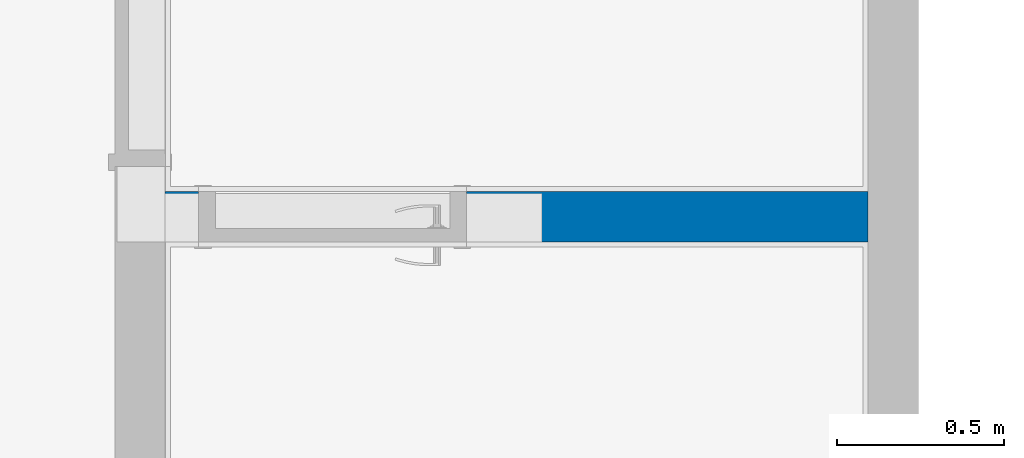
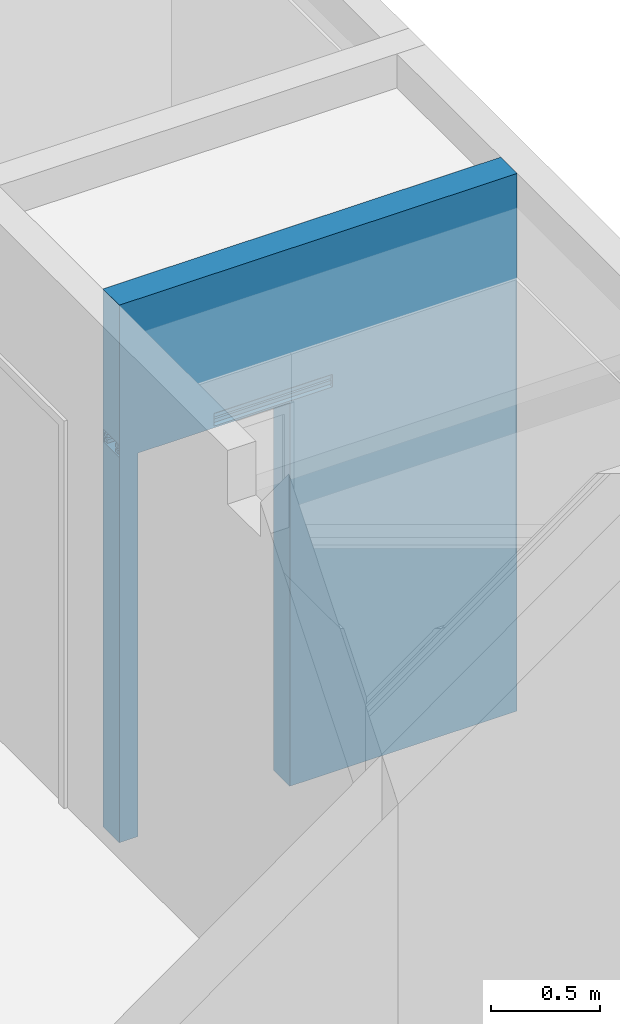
# One storey, part 15 of 17: 1 wall, 1 opening.
"""IFC4 building model written with IfcOpenShell, lengths in millimetres."""

from ifc_helpers import new_model, entity, si_unit, converted_unit, derived_unit, direction, frame, origin_with_axes, place, context, subcontext, project, spatial, polygons, material, constituent, constituent_set, type_object, element, save


model = new_model("IFC4")

# Units and contexts
model_context = context("Model", 3, precision=0.01, world=origin_with_axes(), true_north=direction((0.0, 1.0)))
body_context = subcontext(model_context, "Body", "Model", "MODEL_VIEW")
ifc_project = project(units=[si_unit("LENGTHUNIT", "METRE", prefix="MILLI"), si_unit("AREAUNIT", "SQUARE_METRE"), si_unit("VOLUMEUNIT", "CUBIC_METRE"), converted_unit("PLANEANGLEUNIT", "DEGREE", entity("IfcPlaneAngleMeasure", 0.0174532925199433), si_unit("PLANEANGLEUNIT", "RADIAN"), dimensions=[0, 0, 0, 0, 0, 0, 0]), converted_unit("TIMEUNIT", "Year", entity("IfcTimeMeasure", 31557600.0), si_unit("TIMEUNIT", "SECOND"), dimensions=[0, 0, 1, 0, 0, 0, 0]), si_unit("MASSUNIT", "GRAM", prefix="KILO"), si_unit("THERMODYNAMICTEMPERATUREUNIT", "DEGREE_CELSIUS"), si_unit("LUMINOUSINTENSITYUNIT", "LUMEN"), si_unit("ENERGYUNIT", "JOULE", prefix="MEGA"), derived_unit("THERMALCONDUCTANCEUNIT", [(si_unit("POWERUNIT", "WATT"), 1), (si_unit("LENGTHUNIT", "METRE"), -1), (si_unit("THERMODYNAMICTEMPERATUREUNIT", "KELVIN"), -1)]), derived_unit("SPECIFICHEATCAPACITYUNIT", [(si_unit("ENERGYUNIT", "JOULE"), 1), (si_unit("MASSUNIT", "GRAM", prefix="KILO"), -1), (si_unit("THERMODYNAMICTEMPERATUREUNIT", "KELVIN"), -1)]), derived_unit("MASSDENSITYUNIT", [(si_unit("MASSUNIT", "GRAM", prefix="KILO"), 1), (si_unit("VOLUMEUNIT", "CUBIC_METRE"), -1)])], contexts=[model_context])

# Site, building, storey
site_placement = place(None, origin_with_axes())
site = spatial("IfcSite", under=ifc_project, at=site_placement, Name="Exteriér", CompositionType="ELEMENT")
building_placement = place(site_placement, origin_with_axes())
building = spatial("IfcBuilding", under=site, at=building_placement, Name="Univerzitní lezecké centrum", CompositionType="ELEMENT")
storey_placement = place(building_placement, frame((0.0, 0.0, 3200.0), z_axis=(0.0, 0.0, 1.0), x_axis=(1.0, 0.0, 0.0)))
storey = spatial("IfcBuildingStorey", under=building, at=storey_placement, Name="2.NP", CompositionType="ELEMENT", Elevation=3200.0)

# Wall, opening
ifc_material = material(Name="Keramické tvárnice nenosné tl. 150 mm")
ifc_constituent = constituent(ifc_material, Name="Keramické tvárnice nenosné tl. 150 mm")
ifc_constituent_set = constituent_set(constituents=[ifc_constituent], Name="!Vnitřní keramická stěna 150 mm - nenosná**")
wall_type = type_object("IfcWallType", Name="!Vnitřní keramická stěna 150 mm - nenosná** 150", PredefinedType="NOTDEFINED")
wall_placement = place(storey_placement, frame((10149.85164885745, 1250.117966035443, -120.000000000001), z_axis=(0.0, 0.0, 1.0), x_axis=(-0.9999999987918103, -4.915668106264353e-05, 0.0)))
wall = element("IfcWall", 1, at=wall_placement, inside=storey, type_object=wall_type, material=ifc_constituent_set, Name="St07**", PredefinedType="NOTDEFINED", context=body_context, shape_type="Tessellation", body=[
    polygons([(2149.796587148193, 0.0, 0.500000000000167), (2149.796587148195, -150.0000000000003, 0.500000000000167), (2149.796587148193, -149.9999999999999, 120.000000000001), (2149.796587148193, 0.0, 120.000000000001), (2149.796587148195, -150.0000000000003, 0.0), (2149.796587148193, 0.0, 0.0), (1349.796587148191, -150.0000000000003, 0.0), (1349.796587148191, -150.0000000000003, 0.500000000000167), (1349.796587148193, -150.0000000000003, 120.000000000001), (1349.796587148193, -150.0000000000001, 2140.000000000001), (2149.796587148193, -150.0000000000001, 2140.000000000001), (2249.789213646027, -150.0000000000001, 0.0), (2249.789213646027, -149.9999999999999, 3000.0), (149.9926266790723, -149.9999999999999, 3000.0), (149.9926266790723, -150.0000000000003, 0.0), (2149.796587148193, 0.0, 2140.000000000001), (1349.796587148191, 0.0, 0.500000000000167), (1349.796587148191, 0.0, 0.0), (150.0000001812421, 0.0, 0.0), (150.0000001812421, 0.0, 3000.0), (2249.796587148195, 0.0, 3000.0), (2249.796587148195, 0.0, 0.0), (1349.796587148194, 0.0, 2140.000000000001), (1349.796587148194, 0.0, 120.000000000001), (1124.796586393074, 0.0, 2150.000000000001), (1749.796587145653, 0.0, 2150.000000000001), (1749.796587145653, 0.0, 2221.0), (1124.796586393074, 0.0, 2221.0), (2249.789493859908, -144.299576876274, 2221.0), (2249.796585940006, -0.0245783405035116, 2221.0), (2249.796585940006, -0.0245783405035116, 2150.000000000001), (2249.789493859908, -144.299576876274, 2150.000000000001), (1124.789495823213, -144.2442756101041, 2150.000000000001), (1124.789495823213, -144.2442756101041, 2221.0), (1124.796025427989, -11.41177706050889, 2180.499637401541), (1124.796025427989, -11.41177706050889, 2160.49963740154), (1124.794949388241, -33.30177703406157, 2160.49963740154), (1124.794949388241, -33.30177703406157, 2180.499637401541), (1124.796025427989, -11.41177706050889, 2210.500000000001), (1124.796025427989, -11.41177706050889, 2190.5), (1124.794949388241, -33.30177703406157, 2190.5), (1124.794949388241, -33.30177703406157, 2210.500000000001), (1124.791134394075, -110.9106407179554, 2160.49963740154), (1124.790058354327, -132.8006406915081, 2160.49963740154), (1124.790058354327, -132.8006406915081, 2180.499637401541), (1124.791134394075, -110.9106407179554, 2180.499637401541), (1124.790058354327, -132.8006406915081, 2210.500000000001), (1124.791134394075, -110.9106407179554, 2210.500000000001), (1124.791134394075, -110.9106407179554, 2190.5), (1124.790058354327, -132.8006406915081, 2190.5), (2249.796023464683, -11.46707832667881, 2180.499637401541), (2249.796023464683, -11.46707832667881, 2160.49963740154), (2249.794947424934, -33.35707830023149, 2160.49963740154), (2249.794947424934, -33.35707830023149, 2180.499637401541), (2249.796023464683, -11.46707832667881, 2210.500000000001), (2249.796023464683, -11.46707832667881, 2190.5), (2249.794947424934, -33.35707830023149, 2190.5), (2249.794947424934, -33.35707830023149, 2210.500000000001), (2249.79113243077, -110.9659419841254, 2160.49963740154), (2249.790056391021, -132.855941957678, 2160.49963740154), (2249.790056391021, -132.855941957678, 2180.499637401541), (2249.79113243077, -110.9659419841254, 2180.499637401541), (2249.790056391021, -132.855941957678, 2210.500000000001), (2249.79113243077, -110.9659419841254, 2210.500000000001), (2249.79113243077, -110.9659419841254, 2190.5), (2249.790056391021, -132.855941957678, 2190.5)], [[[1, 2, 3, 4]], [[5, 2, 1, 6]], [[7, 8, 9, 10, 11, 3, 2, 5, 12, 13, 14, 15]], [[16, 4, 3, 11]], [[17, 18, 19, 20, 21, 22, 6, 1, 4, 16, 23, 24], [25, 26, 27, 28]], [[5, 6, 22, 12]], [[17, 8, 7, 18]], [[8, 17, 24, 9]], [[24, 23, 10, 9]], [[23, 16, 11, 10]], [[12, 22, 21, 13], [29, 30, 31, 32]], [[13, 21, 20, 14]], [[20, 19, 15, 14]], [[18, 7, 15, 19]], [[31, 26, 25, 33, 32]], [[30, 27, 26, 31]], [[27, 30, 29, 34, 28]], [[28, 34, 33, 25], [35, 36, 37, 38], [39, 40, 41, 42], [43, 44, 45, 46], [47, 48, 49, 50]], [[34, 29, 32, 33]], [[35, 51, 52, 36]], [[36, 52, 53, 37]], [[37, 53, 54, 38]], [[38, 54, 51, 35]], [[39, 55, 56, 40]], [[40, 56, 57, 41]], [[41, 57, 58, 42]], [[42, 58, 55, 39]], [[43, 59, 60, 44]], [[44, 60, 61, 45]], [[45, 61, 62, 46]], [[46, 62, 59, 43]], [[47, 63, 64, 48]], [[48, 64, 65, 49]], [[49, 65, 66, 50]], [[50, 66, 63, 47]], [[53, 52, 51, 54]], [[57, 56, 55, 58]], [[60, 59, 62, 61]], [[66, 65, 64, 63]]], closed=True),
])
opening_placement = place(wall_placement, frame((1749.796587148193, 0.0, 120.000000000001), z_axis=(0.0, 0.0, 1.0), x_axis=(1.0, 0.0, 0.0)))
element("IfcOpeningElement", 2, at=opening_placement, cuts=wall, Name="D06", context=body_context, identifier="Reference", shape_type="Tessellation", body=[
    polygons([(399.9999999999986, 0.0, 2020.0), (-400.0000000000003, 0.0, 2020.0), (-400.0000000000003, -150.0000000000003, 2020.0), (400.0000000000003, -150.0000000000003, 2020.0), (-400.0000000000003, 0.0, 0.0), (399.9999999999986, 0.0, 0.0), (411.9999999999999, 0.0, 0.0), (411.9999999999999, 0.0, 2032.0), (-412.0000000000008, 0.0, 2032.0), (-412.0000000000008, 0.0, 0.0), (-400.0000000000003, -150.0000000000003, 0.0), (-411.999999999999, -150.0000000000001, 0.0), (-411.999999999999, -150.0000000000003, 2032.0), (411.9999999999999, -150.0000000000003, 2032.0), (411.9999999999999, -150.0000000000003, 0.0), (400.0000000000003, -150.0000000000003, 0.0), (399.9999999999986, 1.117966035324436, 0.0), (411.9999999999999, 1.117966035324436, 0.0), (411.9999999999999, 1.117966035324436, 2032.0), (-412.0000000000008, 1.117966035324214, 2032.0), (-412.0000000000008, 1.117966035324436, 0.0), (-400.0000000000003, 1.117966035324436, 0.0), (400.0000000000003, -151.1179660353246, 0.0), (-400.0000000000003, -151.1179660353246, 0.0), (-411.999999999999, -151.1179660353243, 0.0), (-411.999999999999, -151.1179660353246, 2032.0), (411.999999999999, -151.1179660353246, 2032.0), (411.999999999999, -151.1179660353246, 0.0), (399.9999999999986, 1.117966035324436, 2020.0), (-400.0000000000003, 1.117966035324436, 2020.0)], [[[1, 2, 3, 4]], [[5, 2, 1, 6, 7, 8, 9, 10]], [[2, 5, 11, 3]], [[4, 3, 11, 12, 13, 14, 15, 16]], [[6, 1, 4, 16]], [[6, 17, 18, 7]], [[8, 7, 18, 19]], [[9, 8, 19, 20]], [[10, 9, 20, 21]], [[22, 5, 10, 21]], [[17, 6, 16, 23, 24, 11, 5, 22]], [[11, 24, 25, 12]], [[13, 12, 25, 26]], [[14, 13, 26, 27]], [[15, 14, 27, 28]], [[23, 16, 15, 28]], [[29, 30, 22, 21, 20, 19, 18, 17]], [[24, 23, 28, 27, 26, 25]], [[29, 17, 22, 30]]], closed=True),
])

save(model, "model.ifc")
